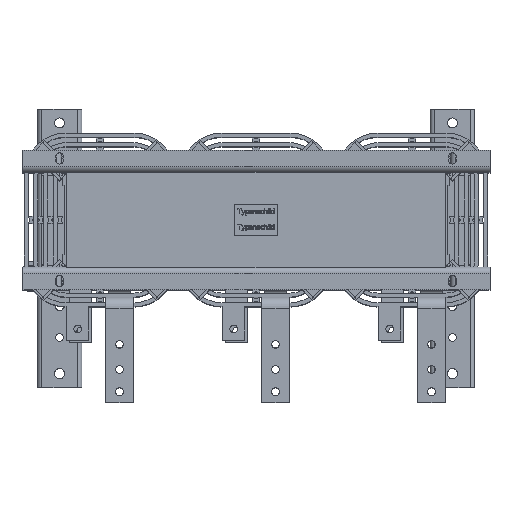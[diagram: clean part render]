
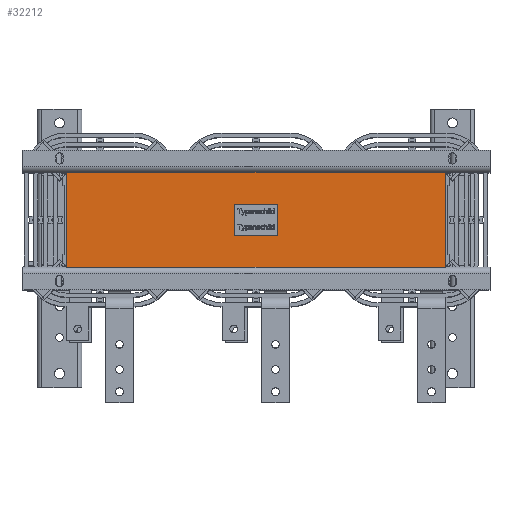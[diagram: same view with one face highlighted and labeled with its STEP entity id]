
A CAD part, top view. The second image highlights one B-rep face of the part: STEP entity #32212.
In plain terms, the highlighted planar face has unit normal (0, 0, 1).
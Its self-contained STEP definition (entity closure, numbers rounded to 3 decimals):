
#32111=CARTESIAN_POINT('',(-39.0,-28.,370.));
#32112=VERTEX_POINT('',#32111);
#32119=CARTESIAN_POINT('',(39.,-28.,370.));
#32120=VERTEX_POINT('',#32119);
#32121=CARTESIAN_POINT('',(39.0,-28.,370.));
#32122=DIRECTION('',(-1.0,0.0,0.0));
#32123=VECTOR('',#32122,78.0);
#32124=LINE('',#32121,#32123);
#32125=EDGE_CURVE('',#32120,#32112,#32124,.T.);
#32148=CARTESIAN_POINT('',(-340.,0.0,370.));
#32149=DIRECTION('',(0.0,0.0,1.0));
#32150=DIRECTION('',(1.0,0.0,0.0));
#32151=AXIS2_PLACEMENT_3D('',#32148,#32149,#32150);
#32152=PLANE('',#32151);
#32153=CARTESIAN_POINT('',(340.,-85.,370.));
#32154=VERTEX_POINT('',#32153);
#32155=CARTESIAN_POINT('',(340.,85.,370.));
#32156=VERTEX_POINT('',#32155);
#32157=CARTESIAN_POINT('',(340.,-85.,370.));
#32158=DIRECTION('',(0.0,1.0,0.0));
#32159=VECTOR('',#32158,170.);
#32160=LINE('',#32157,#32159);
#32161=EDGE_CURVE('',#32154,#32156,#32160,.T.);
#32162=ORIENTED_EDGE('',*,*,#32161,.T.);
#32163=CARTESIAN_POINT('',(-340.,85.,370.));
#32164=VERTEX_POINT('',#32163);
#32165=CARTESIAN_POINT('',(-340.,85.,370.));
#32166=DIRECTION('',(1.0,0.0,0.0));
#32167=VECTOR('',#32166,680.);
#32168=LINE('',#32165,#32167);
#32169=EDGE_CURVE('',#32164,#32156,#32168,.T.);
#32170=ORIENTED_EDGE('',*,*,#32169,.F.);
#32171=CARTESIAN_POINT('',(-340.,-85.,370.));
#32172=VERTEX_POINT('',#32171);
#32173=CARTESIAN_POINT('',(-340.,85.,370.));
#32174=DIRECTION('',(0.0,-1.0,0.0));
#32175=VECTOR('',#32174,170.);
#32176=LINE('',#32173,#32175);
#32177=EDGE_CURVE('',#32164,#32172,#32176,.T.);
#32178=ORIENTED_EDGE('',*,*,#32177,.T.);
#32179=CARTESIAN_POINT('',(340.,-85.,370.));
#32180=DIRECTION('',(-1.0,0.0,0.0));
#32181=VECTOR('',#32180,680.);
#32182=LINE('',#32179,#32181);
#32183=EDGE_CURVE('',#32154,#32172,#32182,.T.);
#32184=ORIENTED_EDGE('',*,*,#32183,.F.);
#32185=EDGE_LOOP('',(#32162,#32170,#32178,#32184));
#32186=FACE_OUTER_BOUND('',#32185,.T.);
#32187=CARTESIAN_POINT('',(39.0,28.,370.));
#32188=VERTEX_POINT('',#32187);
#32189=CARTESIAN_POINT('',(39.,28.,370.));
#32190=DIRECTION('',(0.0,-1.0,0.0));
#32191=VECTOR('',#32190,56.);
#32192=LINE('',#32189,#32191);
#32193=EDGE_CURVE('',#32188,#32120,#32192,.T.);
#32194=ORIENTED_EDGE('',*,*,#32193,.T.);
#32195=ORIENTED_EDGE('',*,*,#32125,.T.);
#32196=CARTESIAN_POINT('',(-39.0,28.,370.));
#32197=VERTEX_POINT('',#32196);
#32198=CARTESIAN_POINT('',(-39.,-28.,370.));
#32199=DIRECTION('',(0.0,1.0,0.0));
#32200=VECTOR('',#32199,56.);
#32201=LINE('',#32198,#32200);
#32202=EDGE_CURVE('',#32112,#32197,#32201,.T.);
#32203=ORIENTED_EDGE('',*,*,#32202,.T.);
#32204=CARTESIAN_POINT('',(-39.0,28.,370.));
#32205=DIRECTION('',(1.0,0.0,0.0));
#32206=VECTOR('',#32205,78.0);
#32207=LINE('',#32204,#32206);
#32208=EDGE_CURVE('',#32197,#32188,#32207,.T.);
#32209=ORIENTED_EDGE('',*,*,#32208,.T.);
#32210=EDGE_LOOP('',(#32194,#32195,#32203,#32209));
#32211=FACE_BOUND('',#32210,.T.);
#32212=ADVANCED_FACE('',(#32186,#32211),#32152,.T.);
